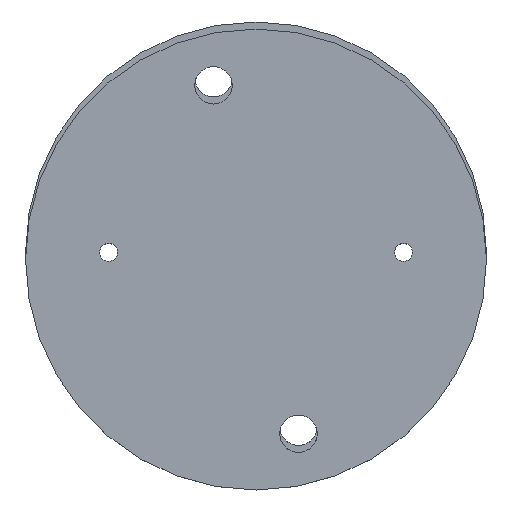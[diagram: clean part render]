
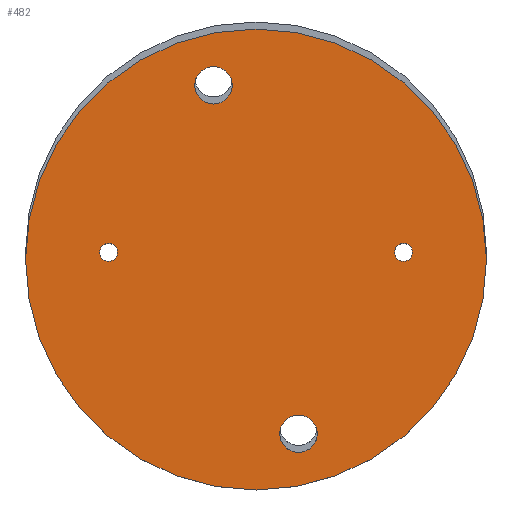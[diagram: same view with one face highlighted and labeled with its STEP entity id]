
A CAD part, top view. The second image highlights one B-rep face of the part: STEP entity #482.
In plain terms, the highlighted planar face has unit normal (0, 0, 1).
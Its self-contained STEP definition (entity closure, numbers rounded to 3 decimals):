
#92=FACE_BOUND('',#157,.T.);
#93=FACE_BOUND('',#158,.T.);
#94=FACE_BOUND('',#159,.T.);
#95=FACE_BOUND('',#160,.T.);
#120=FACE_OUTER_BOUND('',#156,.T.);
#156=EDGE_LOOP('',(#419));
#157=EDGE_LOOP('',(#420));
#158=EDGE_LOOP('',(#421));
#159=EDGE_LOOP('',(#422));
#160=EDGE_LOOP('',(#423));
#170=CIRCLE('',#509,1.25);
#172=CIRCLE('',#512,1.25);
#199=CIRCLE('',#560,32.125);
#200=CIRCLE('',#561,2.61);
#201=CIRCLE('',#562,2.61);
#208=VERTEX_POINT('',#746);
#210=VERTEX_POINT('',#752);
#242=VERTEX_POINT('',#856);
#243=VERTEX_POINT('',#858);
#244=VERTEX_POINT('',#860);
#251=EDGE_CURVE('',#208,#208,#170,.T.);
#254=EDGE_CURVE('',#210,#210,#172,.T.);
#304=EDGE_CURVE('',#242,#242,#199,.T.);
#305=EDGE_CURVE('',#243,#243,#200,.T.);
#306=EDGE_CURVE('',#244,#244,#201,.T.);
#419=ORIENTED_EDGE('',*,*,#304,.T.);
#420=ORIENTED_EDGE('',*,*,#251,.T.);
#421=ORIENTED_EDGE('',*,*,#254,.T.);
#422=ORIENTED_EDGE('',*,*,#305,.T.);
#423=ORIENTED_EDGE('',*,*,#306,.T.);
#456=PLANE('',#559);
#482=ADVANCED_FACE('',(#120,#92,#93,#94,#95),#456,.T.);
#509=AXIS2_PLACEMENT_3D('',#748,#587,#588);
#512=AXIS2_PLACEMENT_3D('',#754,#594,#595);
#559=AXIS2_PLACEMENT_3D('',#855,#711,#712);
#560=AXIS2_PLACEMENT_3D('',#857,#713,#714);
#561=AXIS2_PLACEMENT_3D('',#859,#715,#716);
#562=AXIS2_PLACEMENT_3D('',#861,#717,#718);
#587=DIRECTION('center_axis',(0.,0.,-1.));
#588=DIRECTION('ref_axis',(1.,0.,0.));
#594=DIRECTION('center_axis',(0.,0.,-1.));
#595=DIRECTION('ref_axis',(1.,0.,0.));
#711=DIRECTION('center_axis',(0.,0.,1.));
#712=DIRECTION('ref_axis',(1.,0.,0.));
#713=DIRECTION('center_axis',(0.,0.,1.));
#714=DIRECTION('ref_axis',(1.,0.,0.));
#715=DIRECTION('center_axis',(0.,0.,-1.));
#716=DIRECTION('ref_axis',(1.,0.,0.));
#717=DIRECTION('center_axis',(0.,0.,-1.));
#718=DIRECTION('ref_axis',(1.,0.,0.));
#746=CARTESIAN_POINT('',(-21.8,1.,10.));
#748=CARTESIAN_POINT('Origin',(-20.55,1.,10.));
#752=CARTESIAN_POINT('',(19.318,1.,10.));
#754=CARTESIAN_POINT('Origin',(20.568,1.,10.));
#855=CARTESIAN_POINT('Origin',(-10.134,0.,10.));
#856=CARTESIAN_POINT('',(-32.125,0.,10.));
#857=CARTESIAN_POINT('Origin',(0.,0.,10.));
#858=CARTESIAN_POINT('',(-8.531,24.291,10.));
#859=CARTESIAN_POINT('Origin',(-5.921,24.291,10.));
#860=CARTESIAN_POINT('',(3.311,-24.291,10.));
#861=CARTESIAN_POINT('Origin',(5.921,-24.291,10.));
